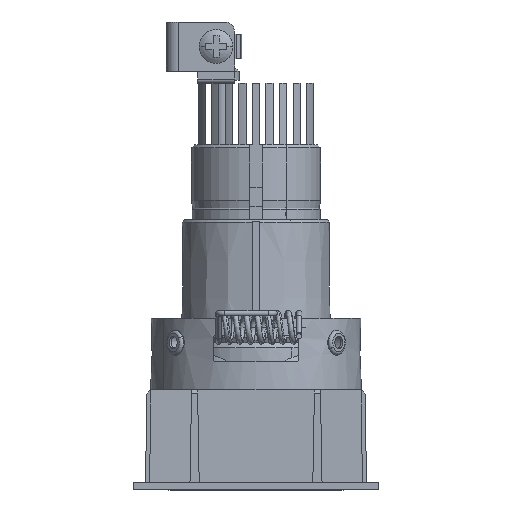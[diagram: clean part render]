
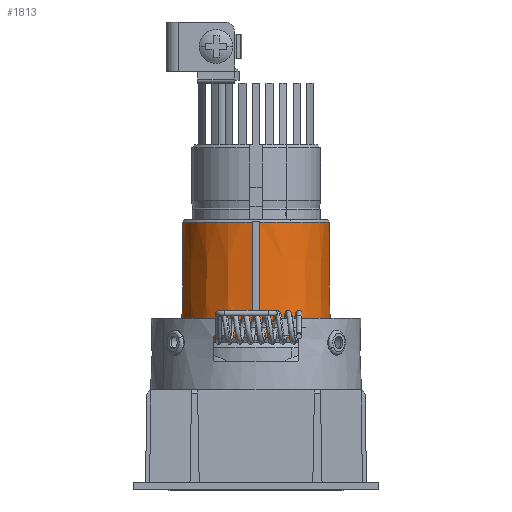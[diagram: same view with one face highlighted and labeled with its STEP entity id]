
A CAD part, front view. The second image highlights one B-rep face of the part: STEP entity #1813.
In plain terms, the highlighted conical face has half-angle 0.5 degrees and reference radius 12.085 mm.
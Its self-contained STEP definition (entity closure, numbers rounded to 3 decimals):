
#40=CARTESIAN_POINT('',(-0.501,-12.157,24.81));
#42=CARTESIAN_POINT('',(-0.501,-12.157,24.81));
#43=CARTESIAN_POINT('',(-0.512,-12.138,26.908));
#44=CARTESIAN_POINT('',(-0.534,-12.101,31.098));
#45=CARTESIAN_POINT('',(-0.566,-12.045,37.361));
#46=CARTESIAN_POINT('',(-0.588,-12.007,41.523));
#47=CARTESIAN_POINT('',(-0.599,-11.989,43.6));
#60=CARTESIAN_POINT('',(0.,0.,24.81));
#61=DIRECTION('',(0.,0.,-1.));
#62=DIRECTION('',(0.878,-0.479,0.));
#63=AXIS2_PLACEMENT_3D('',#60,#61,#62);
#65=CARTESIAN_POINT('',(0.,0.,43.6));
#66=DIRECTION('',(0.,0.,-1.));
#67=DIRECTION('',(0.479,-0.878,0.));
#68=AXIS2_PLACEMENT_3D('',#65,#66,#67);
#70=CARTESIAN_POINT('',(0.,0.,43.6));
#71=DIRECTION('',(0.,0.,-1.));
#72=DIRECTION('',(-0.479,0.878,0.));
#73=AXIS2_PLACEMENT_3D('',#70,#71,#72);
#75=CARTESIAN_POINT('',(0.,0.,43.6));
#76=DIRECTION('',(0.,0.,-1.));
#77=DIRECTION('',(-0.05,-0.999,0.));
#78=AXIS2_PLACEMENT_3D('',#75,#76,#77);
#80=CARTESIAN_POINT('',(0.,0.,24.81));
#81=DIRECTION('',(0.,0.,1.));
#82=DIRECTION('',(-0.878,0.479,0.));
#83=AXIS2_PLACEMENT_3D('',#80,#81,#82);
#85=CARTESIAN_POINT('',(0.,0.,24.81));
#86=DIRECTION('',(0.,0.,-1.));
#87=DIRECTION('',(-0.878,0.479,0.));
#88=AXIS2_PLACEMENT_3D('',#85,#86,#87);
#90=CARTESIAN_POINT('',(0.501,-12.157,24.81));
#104=CARTESIAN_POINT('',(0.599,-11.989,43.6));
#105=CARTESIAN_POINT('',(0.588,-12.007,41.523));
#106=CARTESIAN_POINT('',(0.566,-12.045,37.361));
#107=CARTESIAN_POINT('',(0.534,-12.101,31.098));
#108=CARTESIAN_POINT('',(0.512,-12.138,26.908));
#109=CARTESIAN_POINT('',(0.501,-12.157,24.81));
#1679=CARTESIAN_POINT('',(10.678,-5.833,24.81));
#1681=VERTEX_POINT('',#1679);
#1685=CARTESIAN_POINT('',(-10.678,5.833,24.81));
#1686=VERTEX_POINT('',#1685);
#1695=CARTESIAN_POINT('',(-5.755,10.534,43.6));
#1696=CARTESIAN_POINT('',(5.755,-10.534,43.6));
#1697=VERTEX_POINT('',#1695);
#1698=VERTEX_POINT('',#1696);
#1724=VERTEX_POINT('',#40);
#1725=VERTEX_POINT('',#90);
#1727=VERTEX_POINT('',#47);
#1728=VERTEX_POINT('',#104);
#1793=CARTESIAN_POINT('',(0.,0.,34.205));
#1794=DIRECTION('',(0.,0.,-1.));
#1795=DIRECTION('',(0.479,-0.878,0.));
#1796=AXIS2_PLACEMENT_3D('',#1793,#1794,#1795);
#1797=CONICAL_SURFACE('',#1796,12.085,0.5);
#1798=ORIENTED_EDGE('',*,*,#1756,.T.);
#1800=ORIENTED_EDGE('',*,*,#1799,.F.);
#1802=ORIENTED_EDGE('',*,*,#1801,.F.);
#1804=ORIENTED_EDGE('',*,*,#1803,.F.);
#1806=ORIENTED_EDGE('',*,*,#1805,.F.);
#1807=ORIENTED_EDGE('',*,*,#1784,.F.);
#1808=ORIENTED_EDGE('',*,*,#1773,.F.);
#1810=ORIENTED_EDGE('',*,*,#1809,.T.);
#1811=EDGE_LOOP('',(#1798,#1800,#1802,#1804,#1806,#1807,#1808,#1810));
#1812=FACE_OUTER_BOUND('',#1811,.F.);
#1813=ADVANCED_FACE('',(#1812),#1797,.T.);
#48=B_SPLINE_CURVE_WITH_KNOTS('',3,(#42,#43,#44,#45,#46,#47),.UNSPECIFIED.,.F.,
.F.,(4,1,1,4),(0.,0.333,0.667,1.),.UNSPECIFIED.);
#64=CIRCLE('',#63,12.167);
#69=CIRCLE('',#68,12.003);
#74=CIRCLE('',#73,12.003);
#79=CIRCLE('',#78,12.003);
#84=CIRCLE('',#83,12.167);
#89=CIRCLE('',#88,12.167);
#110=B_SPLINE_CURVE_WITH_KNOTS('',3,(#104,#105,#106,#107,#108,#109),
.UNSPECIFIED.,.F.,.F.,(4,1,1,4),(0.,0.333,0.667,1.),
.UNSPECIFIED.);
#1756=EDGE_CURVE('',#1681,#1725,#64,.T.);
#1773=EDGE_CURVE('',#1686,#1724,#84,.T.);
#1784=EDGE_CURVE('',#1724,#1727,#48,.T.);
#1799=EDGE_CURVE('',#1728,#1725,#110,.T.);
#1801=EDGE_CURVE('',#1698,#1728,#69,.T.);
#1803=EDGE_CURVE('',#1697,#1698,#74,.T.);
#1805=EDGE_CURVE('',#1727,#1697,#79,.T.);
#1809=EDGE_CURVE('',#1686,#1681,#89,.T.);
